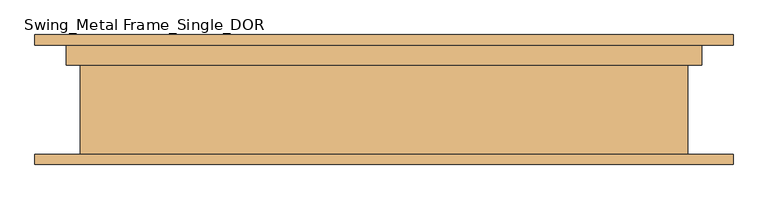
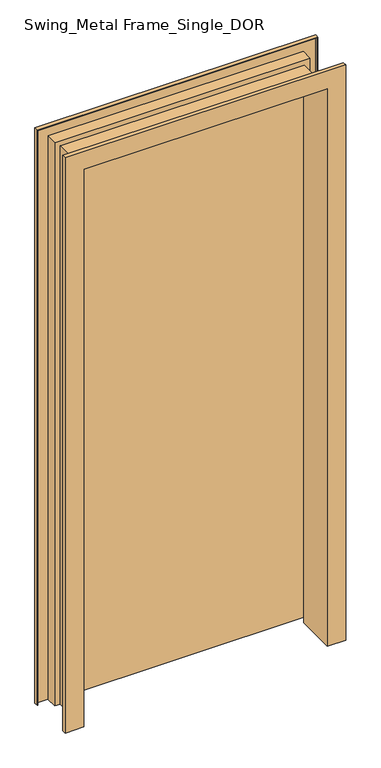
"""IFC4 building model written with IfcOpenShell, lengths in millimetres: door geometry, Swing_Metal Frame_Single_DOR : 2140h x 920 (2210x1010 BLK)."""

import ifcopenshell
import ifcopenshell.guid

model = None  # the IFC model being written
_history = None  # IfcOwnerHistory: only IFC2X3 demands one
_inside = {}  # id of a spatial element -> (the spatial element, [elements in it])
_under = {}  # id of a project, library or spatial element -> (it, [spatial elements below it])
_declared = {}  # id of a project -> (the project, [libraries it declares])
_typed = {}  # id of a type object -> (the type object, [elements of that type])
_made_of = {}  # id of a material, layer set ... -> (it, [elements and type objects made of it])


def new_model(schema):
    """Start an empty IFC model of exactly this schema.

    Asked for "IFC4X3", IfcOpenShell would pick the latest addendum, in which some entities
    have other attributes; the version numbers below select the first issue.
    IFC2X3 requires an IfcOwnerHistory on every rooted entity: one is made here for all.
    """
    global model, _history
    if schema == "IFC4X3":
        model = ifcopenshell.file(schema_version=(4, 3, 0, 0))
    else:
        model = ifcopenshell.file(schema=schema)
    _inside.clear()
    _under.clear()
    _declared.clear()
    _typed.clear()
    _made_of.clear()
    _history = None
    if model.schema == "IFC2X3":
        org = make("IfcOrganization", Name="unknown")
        user = make(
            "IfcPersonAndOrganization",
            ThePerson=make("IfcPerson", FamilyName="unknown"),
            TheOrganization=org,
        )
        app = make(
            "IfcApplication",
            ApplicationDeveloper=org,
            Version="unknown",
            ApplicationFullName="unknown",
            ApplicationIdentifier="unknown",
        )
        _history = make(
            "IfcOwnerHistory",
            OwningUser=user,
            OwningApplication=app,
            ChangeAction="ADDED",
            CreationDate=0,
        )
    return model


def make(cls, **values):
    """One entity of the class cls with the attributes given. An attribute that is None is left unset."""
    return model.create_entity(
        cls, **{name: value for name, value in values.items() if value is not None}
    )


def rooted(cls, **values):
    """An entity with a GlobalId (a new one), such as an element, a storey or a relation."""
    return make(cls, GlobalId=ifcopenshell.guid.new(), OwnerHistory=_history, **values)


def si_unit(unit_type, name, prefix=None):
    """IfcSIUnit, for example si_unit("LENGTHUNIT", "METRE", prefix="MILLI")."""
    return make("IfcSIUnit", UnitType=unit_type, Prefix=prefix, Name=name)


def assignment(units):
    """IfcUnitAssignment: the units of a project."""
    return None if units is None else make("IfcUnitAssignment", Units=units)


def point(xyz):
    """IfcCartesianPoint."""
    return None if xyz is None else make("IfcCartesianPoint", Coordinates=xyz)


def direction(xyz):
    """IfcDirection."""
    return None if xyz is None else make("IfcDirection", DirectionRatios=xyz)


def frame(location, z_axis=None, x_axis=None):
    """IfcAxis2Placement3D, a coordinate frame: its origin and axes. An axis left out is left unset."""
    return make(
        "IfcAxis2Placement3D",
        Location=point(location),
        Axis=direction(z_axis),
        RefDirection=direction(x_axis),
    )


def origin():
    """The frame at (0, 0, 0) with its axes left unset."""
    return frame((0.0, 0.0, 0.0))


def place(relative_to, where):
    """IfcLocalPlacement: puts the frame where relative to a parent placement (None: the world)."""
    return make(
        "IfcLocalPlacement", PlacementRelTo=relative_to, RelativePlacement=where
    )


def context(
    kind, dimensions, precision=None, world=None, true_north=None, identifier=None
):
    """IfcGeometricRepresentationContext, for example the 3D "Model" context."""
    return make(
        "IfcGeometricRepresentationContext",
        ContextIdentifier=identifier,
        ContextType=kind,
        CoordinateSpaceDimension=dimensions,
        Precision=precision,
        WorldCoordinateSystem=world,
        TrueNorth=true_north,
    )


def project(units=None, contexts=None):
    """IfcProject with its units and contexts."""
    return rooted(
        "IfcProject",
        Name="project",
        RepresentationContexts=contexts,
        UnitsInContext=assignment(units),
    )


def spatial(cls, under=None, at=None, **own):
    """A site, building, storey or space (cls), placed at a placement, below another one or the project."""
    s = rooted(cls, ObjectPlacement=at, **own)
    if under is not None:
        _under.setdefault(under.id(), (under, []))[1].append(s)
    return s


def polyline(points):
    """IfcPolyline through the points."""
    return make("IfcPolyline", Points=[point(p) for p in points])


def outline(outer, holes=None, kind="AREA"):
    """IfcArbitraryClosedProfileDef: a profile drawn as a closed curve; with holes, ...WithVoids."""
    if holes is None:
        return make("IfcArbitraryClosedProfileDef", ProfileType=kind, OuterCurve=outer)
    return make(
        "IfcArbitraryProfileDefWithVoids",
        ProfileType=kind,
        OuterCurve=outer,
        InnerCurves=holes,
    )


def extrude(swept, where, along, depth):
    """IfcExtrudedAreaSolid: the profile swept, set in the frame where, extruded along a direction by depth."""
    return make(
        "IfcExtrudedAreaSolid",
        SweptArea=swept,
        Position=where,
        ExtrudedDirection=direction(along),
        Depth=depth,
    )


def faces_of(points, faces, orient=None, outer=None):
    """IfcFace entities. A face is a list of loops; a loop is a list of indices into points, from 0.

    orient and outer hold one flag for each loop. By default every Orientation is true, the
    first loop of a face is its IfcFaceOuterBound and the others are IfcFaceBound.
    """
    made = []
    for i, loops in enumerate(faces):
        bounds = []
        for j, loop in enumerate(loops):
            is_outer = j == 0 if outer is None else outer[i][j]
            bounds.append(
                make(
                    "IfcFaceOuterBound" if is_outer else "IfcFaceBound",
                    Bound=make("IfcPolyLoop", Polygon=[points[k] for k in loop]),
                    Orientation=True if orient is None else orient[i][j],
                )
            )
        made.append(make("IfcFace", Bounds=bounds))
    return made


def faceted_brep(points, faces, orient=None, outer=None, voids=None):
    """IfcFacetedBrep: a solid bounded by flat faces; with voids (closed shells), ...WithVoids."""
    shared = [point(p) for p in points]
    hull = make("IfcClosedShell", CfsFaces=faces_of(shared, faces, orient, outer))
    if voids is None:
        return make("IfcFacetedBrep", Outer=hull)
    return make(
        "IfcFacetedBrepWithVoids",
        Outer=hull,
        Voids=[
            make(cls, CfsFaces=faces_of(shared, fs, o, b)) for cls, fs, o, b in voids
        ],
    )


def shape(context_of_items, identifier, shape_type, items):
    """IfcShapeRepresentation: the items that make up one representation, for example the "Body"."""
    return make(
        "IfcShapeRepresentation",
        ContextOfItems=context_of_items,
        RepresentationIdentifier=identifier,
        RepresentationType=shape_type,
        Items=items,
    )


def source(mapping_origin, context_of_items, identifier, shape_type, items):
    """IfcRepresentationMap: a shape defined once, which mapped items show again and again."""
    return make(
        "IfcRepresentationMap",
        MappingOrigin=mapping_origin,
        MappedRepresentation=shape(context_of_items, identifier, shape_type, items),
    )


def transform(
    local_origin,
    x_axis=None,
    y_axis=None,
    z_axis=None,
    scale=None,
    scale2=None,
    scale3=None,
    uniform=True,
):
    """IfcCartesianTransformationOperator3D, or its non-uniform kind. x_axis, y_axis, z_axis: its Axis1, 2, 3."""
    if uniform:
        return make(
            "IfcCartesianTransformationOperator3D",
            Axis1=direction(x_axis),
            Axis2=direction(y_axis),
            LocalOrigin=point(local_origin),
            Scale=scale,
            Axis3=direction(z_axis),
        )
    return make(
        "IfcCartesianTransformationOperator3DnonUniform",
        Axis1=direction(x_axis),
        Axis2=direction(y_axis),
        LocalOrigin=point(local_origin),
        Scale=scale,
        Axis3=direction(z_axis),
        Scale2=scale2,
        Scale3=scale3,
    )


def mapped(mapping_source, mapping_target):
    """IfcMappedItem: shows the shape of a source again, moved by a transform."""
    return make(
        "IfcMappedItem", MappingSource=mapping_source, MappingTarget=mapping_target
    )


def made_of(thing, what):
    """Note that an element or type object is made of a material, layer set ...; save() writes the relation."""
    if what is not None:
        _made_of.setdefault(what.id(), (what, []))[1].append(thing)
    return thing


def element(
    cls,
    number,
    at=None,
    inside=None,
    cuts=None,
    type_object=None,
    material=None,
    context=None,
    identifier="Body",
    shape_type=None,
    held_by="IfcProductDefinitionShape",
    body=None,
    shapes=None,
    **own,
):
    """One element of the class cls, such as IfcWall. Its Tag is "e" and its number.

    at: its placement. inside: the storey or other place that contains it. cuts: it is an
    opening in that element (IfcRelVoidsElement). A single representation is given by context,
    identifier, shape_type and body (its items); several are given by shapes. held_by: the class
    of the entity that holds the representations. save() writes the other relations.
    """
    e = rooted(cls, Tag="e%d" % number, ObjectPlacement=at, **own)
    if body is not None:
        shapes = [shape(context, identifier, shape_type, body)]
    if shapes is not None:
        e.Representation = make(held_by, Representations=shapes)
    if inside is not None:
        _inside.setdefault(inside.id(), (inside, []))[1].append(e)
    if cuts is not None:
        rooted(
            "IfcRelVoidsElement", RelatingBuildingElement=cuts, RelatedOpeningElement=e
        )
    if type_object is not None:
        _typed.setdefault(type_object.id(), (type_object, []))[1].append(e)
    return made_of(e, material)


def aggregate(whole, parts):
    """IfcRelAggregates: a whole, such as a stair, and the parts it consists of."""
    return rooted("IfcRelAggregates", RelatingObject=whole, RelatedObjects=parts)


def save(model, path):
    """Write the relations noted so far, then the file.

    IfcRelAggregates (storeys below a building ...), IfcRelContainedInSpatialStructure (elements
    in a storey), IfcRelDefinesByType, IfcRelAssociatesMaterial and IfcRelDeclares: one each for
    every whole, place, type object, material and project.
    """
    for whole, parts in _under.values():
        aggregate(whole, parts)
    for where, things in _inside.values():
        rooted(
            "IfcRelContainedInSpatialStructure",
            RelatedElements=things,
            RelatingStructure=where,
        )
    for kind, things in _typed.values():
        rooted("IfcRelDefinesByType", RelatedObjects=things, RelatingType=kind)
    for what, things in _made_of.values():
        rooted("IfcRelAssociatesMaterial", RelatedObjects=things, RelatingMaterial=what)
    for by, libraries in _declared.values():
        rooted("IfcRelDeclares", RelatingContext=by, RelatedDefinitions=libraries)
    model.write(path)


def swing_metal_frame_single_dor_ce4810a8(model_context):
    return source(origin(), model_context, "Body", "SolidModel", [
        extrude(outline(polyline([(460.0, 55.0), (460.0, 15.0), (-460.0, 15.0), (-460.0, 55.0), (460.0, 55.0)])), frame((0.0, 0.0, 20.0), z_axis=(0.0, 0.0, 1.0), x_axis=(1.0, 0.0, 0.0)), (0.0, 0.0, 1.0), 2140.0),
        faceted_brep([(-510.0, -135.0, 0.0), (-510.0, -120.0, 0.0), (-508.0, -120.0, 0.0), (-508.0, -133.0, 0.0), (-444.0, -133.0, 0.0), (-444.0, 11.0, 0.0), (-464.0, 11.0, 0.0), (-464.0, 53.0, 0.0), (-508.0, 53.0, 0.0), (-508.0, 40.0, 0.0), (-510.0, 40.0, 0.0), (-510.0, 55.0, 0.0), (-462.0, 55.0, 0.0), (-462.0, 13.0, 0.0), (-442.0, 13.0, 0.0), (-442.0, -135.0, 0.0), (-510.0, -135.0, 2210.0), (-510.0, -120.0, 2210.0), (510.0, -120.0, 2210.0), (510.0, -120.0, 0.0), (508.0, -120.0, 0.0), (508.0, -120.0, 2208.0), (-508.0, -120.0, 2208.0), (-508.0, -133.0, 2208.0), (508.0, -133.0, 2208.0), (508.0, -133.0, 0.0), (444.0, -133.0, 0.0), (444.0, -133.0, 2144.0), (-444.0, -133.0, 2144.0), (-444.0, 11.0, 2144.0), (444.0, 11.0, 2144.0), (444.0, 11.0, 0.0), (464.0, 11.0, 0.0), (464.0, 11.0, 2164.0), (-464.0, 11.0, 2164.0), (-464.0, 53.0, 2164.0), (464.0, 53.0, 2164.0), (464.0, 53.0, 0.0), (508.0, 53.0, 0.0), (508.0, 53.0, 2208.0), (-508.0, 53.0, 2208.0), (-508.0, 40.0, 2208.0), (508.0, 40.0, 2208.0), (508.0, 40.0, 0.0), (510.0, 40.0, 0.0), (510.0, 40.0, 2210.0), (-510.0, 40.0, 2210.0), (-510.0, 55.0, 2210.0), (510.0, 55.0, 2210.0), (510.0, 55.0, 0.0), (462.0, 55.0, 0.0), (462.0, 55.0, 2162.0), (-462.0, 55.0, 2162.0), (-462.0, 13.0, 2162.0), (462.0, 13.0, 2162.0), (462.0, 13.0, 0.0), (442.0, 13.0, 0.0), (442.0, 13.0, 2142.0), (-442.0, 13.0, 2142.0), (-442.0, -135.0, 2142.0), (442.0, -135.0, 2142.0), (442.0, -135.0, 0.0), (510.0, -135.0, 0.0), (510.0, -135.0, 2210.0)], [[[0, 1, 2, 3, 4, 5, 6, 7, 8, 9, 10, 11, 12, 13, 14, 15]], [[1, 0, 16, 17]], [[2, 1, 17, 18, 19, 20, 21, 22]], [[3, 2, 22, 23]], [[4, 3, 23, 24, 25, 26, 27, 28]], [[5, 4, 28, 29]], [[6, 5, 29, 30, 31, 32, 33, 34]], [[7, 6, 34, 35]], [[8, 7, 35, 36, 37, 38, 39, 40]], [[9, 8, 40, 41]], [[10, 9, 41, 42, 43, 44, 45, 46]], [[11, 10, 46, 47]], [[12, 11, 47, 48, 49, 50, 51, 52]], [[13, 12, 52, 53]], [[14, 13, 53, 54, 55, 56, 57, 58]], [[15, 14, 58, 59]], [[0, 15, 59, 60, 61, 62, 63, 16]], [[18, 63, 62, 19]], [[62, 61, 56, 55, 50, 49, 44, 43, 38, 37, 32, 31, 26, 25, 20, 19]], [[24, 21, 20, 25]], [[30, 27, 26, 31]], [[36, 33, 32, 37]], [[42, 39, 38, 43]], [[48, 45, 44, 49]], [[54, 51, 50, 55]], [[60, 57, 56, 61]], [[17, 16, 63, 18]], [[23, 22, 21, 24]], [[29, 28, 27, 30]], [[35, 34, 33, 36]], [[41, 40, 39, 42]], [[47, 46, 45, 48]], [[53, 52, 51, 54]], [[59, 58, 57, 60]]]),
    ])


if __name__ == "__main__":
    model = new_model("IFC4")
    model_context = context("Model", 3, world=origin())
    ifc_project = project(units=[si_unit("LENGTHUNIT", "METRE", prefix="MILLI")], contexts=[model_context])
    site = spatial("IfcSite", under=ifc_project)
    building = spatial("IfcBuilding", under=site)
    placement = place(None, origin())
    swing_metal_frame_single_dor_shape = swing_metal_frame_single_dor_ce4810a8(model_context)
    element("IfcDoor", 1, ObjectType="Swing_Metal Frame_Single_DOR : 2140h x 920 (2210x1010 BLK)", at=placement, inside=building, context=model_context, shape_type="MappedRepresentation", body=[
        mapped(swing_metal_frame_single_dor_shape, transform((0.0, 0.0, 0.0), x_axis=(1.0, 0.0, 0.0), y_axis=(0.0, 1.0, 0.0), z_axis=(0.0, 0.0, 1.0))),
    ])
    save(model, "model.ifc")
